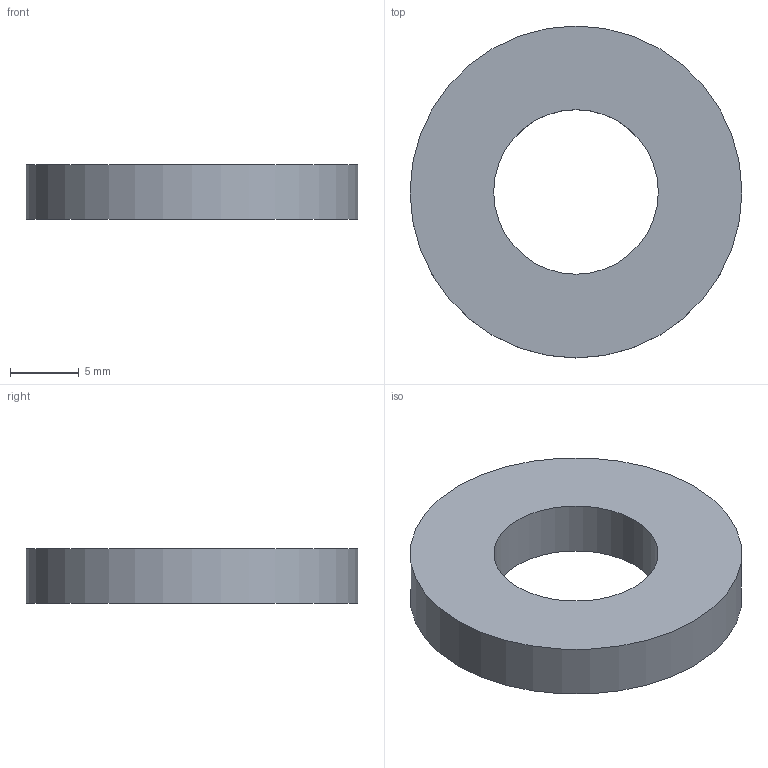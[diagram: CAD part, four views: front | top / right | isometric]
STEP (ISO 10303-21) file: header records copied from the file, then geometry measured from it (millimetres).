
FILE_DESCRIPTION(('Open CASCADE Model'),'2;1');
FILE_NAME('Open CASCADE Shape Model','2026-10-02T14:11:18',('Author'),( 'Open CASCADE'),'Open CASCADE STEP processor 8.0','build123d', 'Unknown');
FILE_SCHEMA(('AUTOMOTIVE_DESIGN { 1 0 10303 214 1 1 1 1 }'));
Length unit declared in the file: millimetre
Products named in the file (1): COMPOUND
Bounding box: 24.2 x 24.2 x 4 mm (x, y, z)
Volume: 1387.5 mm3; surface area: 1148.6 mm2
Topology: 1 solids, 1 shells, 4 faces, 6 edges, 4 vertices
Faces by surface type: cylinder 2, plane 2
Full cylindrical faces by diameter (mm): 12 x1, 24.2 x1
Entity records: 186 total; most frequent: DIRECTION 32, CARTESIAN_POINT 27, ORIENTED_EDGE 12, PCURVE 12, DEFINITIONAL_REPRESENTATION 12, LINE 10, VECTOR 10, AXIS2_PLACEMENT_3D 9
